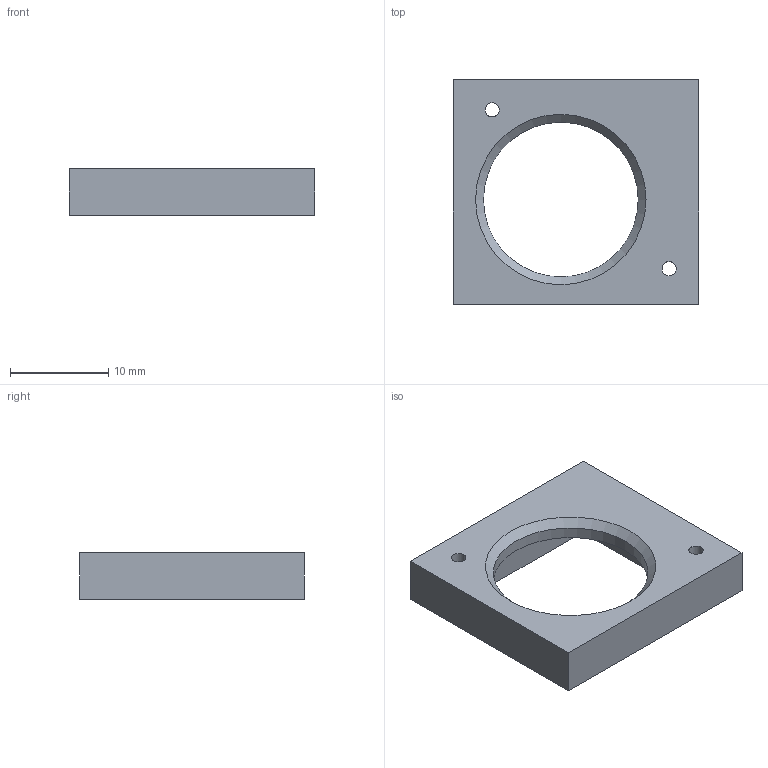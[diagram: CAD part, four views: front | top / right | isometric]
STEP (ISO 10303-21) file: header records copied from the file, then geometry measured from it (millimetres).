
FILE_DESCRIPTION(('Open CASCADE Model'),'2;1');
FILE_NAME('Open CASCADE Shape Model','2026-05-31T19:44:32',('Author'),( 'Open CASCADE'),'Open CASCADE STEP processor 7.6','Open CASCADE 7.6' ,'Unknown');
FILE_SCHEMA(('AP242_MANAGED_MODEL_BASED_3D_ENGINEERING_MIM_LF. {1 0 10303 442 1 1 4 }'));
Length unit declared in the file: millimetre
Products named in the file (1): Open CASCADE STEP translator 7.6 18
Bounding box: 25 x 22.9 x 4.75 mm (x, y, z)
Volume: 1364.5 mm3; surface area: 1520.6 mm2
Topology: 1 solids, 1 shells, 25 faces, 70 edges, 46 vertices
Faces by surface type: plane 19, cone 3, cylinder 3
Full cylindrical faces by diameter (mm): 1.45 x2, 15.789 x1
Entity records: 1829 total; most frequent: CARTESIAN_POINT 430, DIRECTION 255, LINE 180, VECTOR 180, ORIENTED_EDGE 140, PCURVE 140, DEFINITIONAL_REPRESENTATION 140, EDGE_CURVE 70
